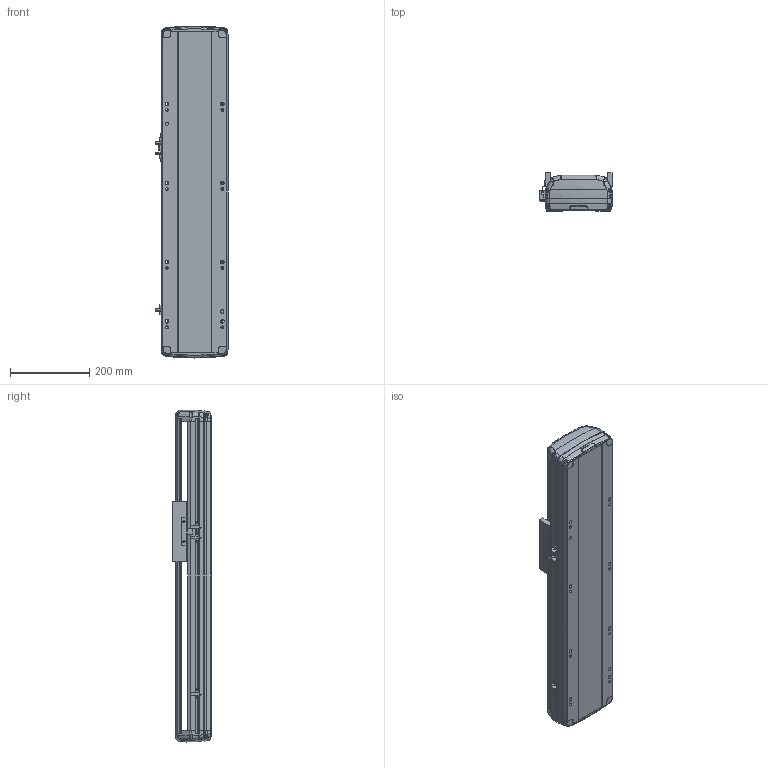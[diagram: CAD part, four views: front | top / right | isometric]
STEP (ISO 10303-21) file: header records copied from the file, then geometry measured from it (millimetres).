
FILE_DESCRIPTION (( 'STEP AP214' ), '1' );
FILE_NAME ('RTH17-XX-400-B-M40B-C4.STEP', '2025-10-24T09:14:32', ( '' ), ( '' ), 'SwSTEP 2.0', 'SolidWorks 2018', '' );
FILE_SCHEMA (( 'AUTOMOTIVE_DESIGN' ));
Length unit declared in the file: millimetre
Products named in the file (7): N_RTH17-E-004丝杆螺母连接座^RTH17-XX-XX-B-M40B-C4（方程式）; N_RTH17-M-011B底座^RTH17-XX-XX-B-M40B-C4（方程式）; N_RTH17-GY-001P^RTH17-XX-XX-B-M40B-C4（方程式）; RTH17-XX-400-B-M40B-C4; N_RTH-L-012 感应片(外置)^RTH17-XX-XX-B-M40B-C4（方程式）; N_OMRON EE-SX672 換覜ん^RTH17-XX-XX-B-M40B-C4ㄗ源最宒ㄘ; N_RTH17-M-007B上盖^RTH17-XX-XX-B-M40B-C4（方程式）
Assembly tree (9 placements, depth 2):
  RTH17-XX-400-B-M40B-C4
    N_RTH17-M-011B底座^RTH17-XX-XX-B-M40B-C4（方程式）
    N_RTH17-M-007B上盖^RTH17-XX-XX-B-M40B-C4（方程式）
    N_OMRON EE-SX672 換覜ん^RTH17-XX-XX-B-M40B-C4ㄗ源最宒ㄘ  x3
    N_RTH-L-012 感应片(外置)^RTH17-XX-XX-B-M40B-C4（方程式）
    N_RTH17-E-004丝杆螺母连接座^RTH17-XX-XX-B-M40B-C4（方程式）
    N_RTH17-GY-001P^RTH17-XX-XX-B-M40B-C4（方程式）  x2
Bounding box: 183.5 x 97 x 840.04 mm (x, y, z)
Volume: 6314045 mm3; surface area: 910741.2 mm2
Topology: 7 solids, 11 shells, 1704 faces, 4772 edges, 3098 vertices
Faces by surface type: plane 807, cylinder 431, bspline 420, cone 28, torus 18
Entity records: 39510 total; most frequent: CARTESIAN_POINT 16535, ORIENTED_EDGE 5048, DIRECTION 3976, EDGE_CURVE 2528, VERTEX_POINT 1652, LINE 1400, VECTOR 1400, AXIS2_PLACEMENT_3D 1288
